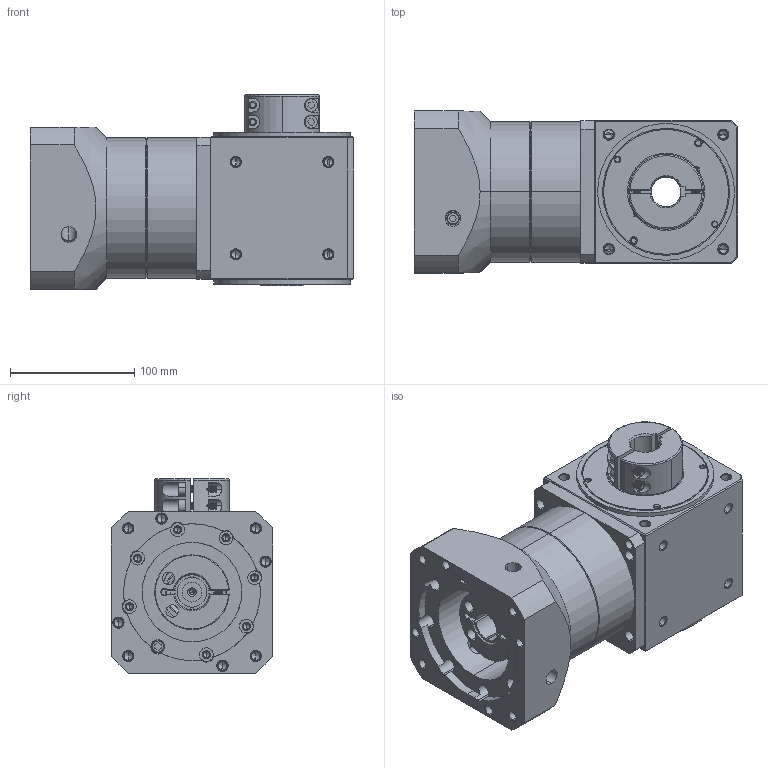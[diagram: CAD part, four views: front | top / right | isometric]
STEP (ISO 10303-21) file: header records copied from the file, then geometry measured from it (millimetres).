
FILE_DESCRIPTION (( 'STEP AP203' ), '1' );
FILE_NAME ('WS1WS120F-□-24-110-145-M8(1：2配GNP120L1).STEP', '2013-03-21T01:26:36', ( 'user' ), ( 'SYNNEX' ), 'SwSTEP 2.0', 'SolidWorks 2008', '' );
FILE_SCHEMA (( 'CONFIG_CONTROL_DESIGN' ));
Products named in the file (1): WS1WS120F-¡¼-24-110-145-M8(1¡G2°tGNP120L1)
Bounding box: 259.7 x 130 x 156 mm (x, y, z)
Volume: 2293490.7 mm3; surface area: 481419.3 mm2
Topology: 20 solids, 20 shells, 2296 faces, 5578 edges, 3284 vertices
Faces by surface type: cone 1077, cylinder 539, plane 357, sphere 184, torus 139
Entity records: 75204 total; most frequent: CARTESIAN_POINT 21567, DIRECTION 11933, ORIENTED_EDGE 10804, EDGE_CURVE 5402, AXIS2_PLACEMENT_3D 4996, VERTEX_POINT 3224, CIRCLE 2699, EDGE_LOOP 2618
